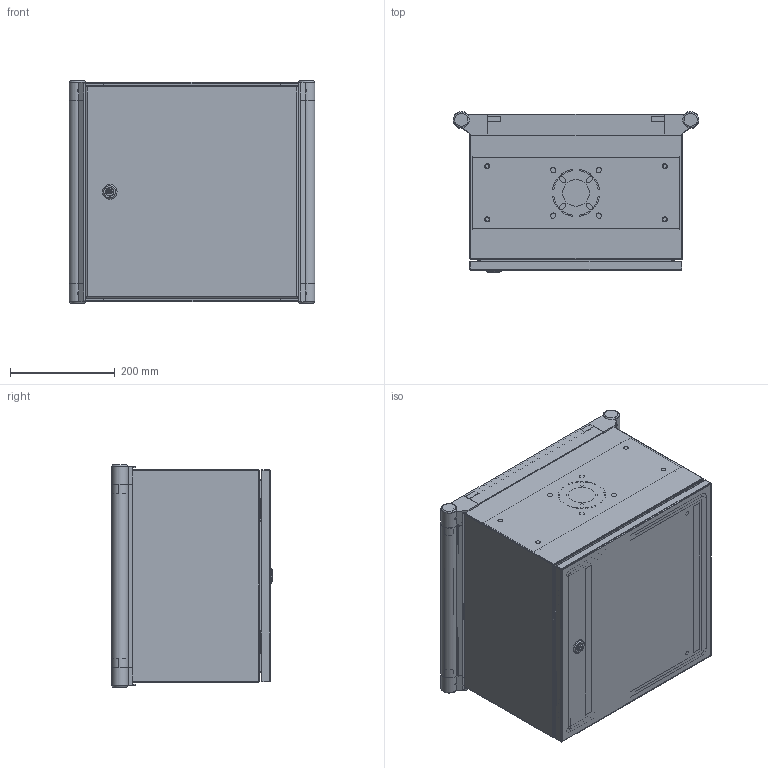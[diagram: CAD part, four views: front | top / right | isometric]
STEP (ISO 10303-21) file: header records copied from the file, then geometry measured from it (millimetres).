
FILE_DESCRIPTION(/* description */ ('Unknown'),/* implementation_level */ '2;1');
FILE_NAME(/* name */ 'ECP161610',/* time_stamp */ '2018-12-28T09:19:15-05:00',/* author */ ('Unknown'),/* organization */ ('Unknown'),/* preprocessor_version */ 'ST-DEVELOPER v16.7',/* originating_system */ 'DEX',/* authorisation */ $);
FILE_SCHEMA (('AUTOMOTIVE_DESIGN {1 0 10303 214 3 1 1}'));
Length unit declared in the file: millimetre
Products named in the file (39): ECP161610; WAF25024; NTS18070; COV30005; COM70219_oa_0; GSK11095_oa_1; HNG14573-1; COM54186-2; COM54183-3; EXT15035; EXT15034; COM54184-3; COM54185-2; COM56618-3; COM54189; STD21878; HNG14573-2; COM54182-3; COM54181-3; NTS16535; KIT90256; LAB30005; NTS165305; KIT90724; WAF25030; NTS16697; scs19060; CAP02342; QLB20179; LOK10000; LOK10000CAM; LOK10000SC; LOK10000NUT; PIN17645; GSK11095_oa_2; GSK11095_oa_3; GSK11095_oa_4
Assembly tree (69 placements, depth 3):
  ECP161610
    WAF25024  x4
    NTS18070  x4
    COV30005  x4
    COM70219_oa_0
    GSK11095_oa_1
    HNG14573-1  x4
    COM54186-2
    COM54183-3
      EXT15035  x2
      EXT15034  x2
      COM54184-3  x2
      COM54185-2  x2
    COM56618-3
      COM54189  x2
      STD21878  x2
      HNG14573-2  x2
      COM56618-3
    COM54182-3
    COM54181-3
    NTS16535  x4
    STD21878  x6
    KIT90256
      LAB30005
      NTS165305
      NTS16535
    KIT90724
      WAF25030
      NTS16697
      scs19060
    CAP02342  x2
    QLB20179
    LOK10000
      LOK10000
      LOK10000CAM
      LOK10000SC
      LOK10000NUT
    PIN17645  x2
    GSK11095_oa_2
    GSK11095_oa_3
    GSK11095_oa_4
Bounding box: 470.2 x 307.56 x 425.27 mm (x, y, z)
Volume: 2705859.4 mm3; surface area: 2679898.5 mm2
Topology: 63 solids, 64 shells, 1835 faces, 4772 edges, 3124 vertices
Faces by surface type: plane 1200, cylinder 408, bspline 154, torus 49, cone 24
Full cylindrical faces by diameter (mm): 3.175 x4, 4.369 x2, 4.597 x4, 4.976 x6, 5.08 x4, 5.69 x1, 5.74 x2, 5.893 x2, 6.096 x2, 6.35 x13, 6.985 x4, 7.137 x12, 7.163 x1, 7.417 x2, 8.738 x4, 9.525 x4, 10.109 x6, 11.125 x1, 11.557 x4, 13.335 x1, 14.986 x4, 15.875 x6, 17.78 x4, 18.415 x4, 19.939 x2, 27.94 x1, 50.8 x1
Entity records: 38061 total; most frequent: CARTESIAN_POINT 9187, ORIENTED_EDGE 5920, DIRECTION 5320, EDGE_CURVE 2960, LINE 2062, VECTOR 2062, VERTEX_POINT 1962, AXIS2_PLACEMENT_3D 1629
